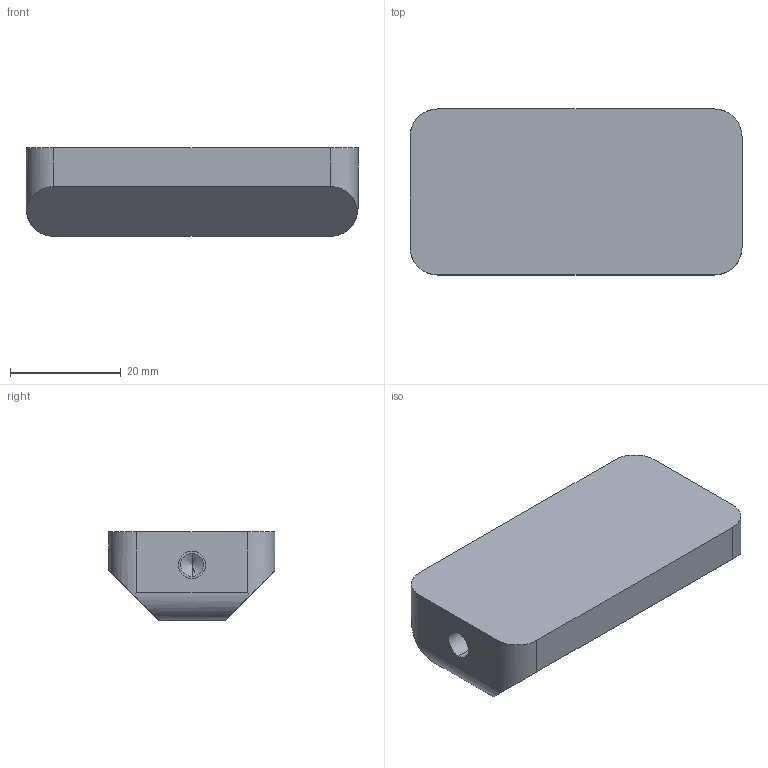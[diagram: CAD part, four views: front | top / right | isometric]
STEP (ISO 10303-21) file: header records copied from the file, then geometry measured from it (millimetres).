
FILE_DESCRIPTION (( 'STEP AP203' ), '1' );
FILE_NAME ('0003486 EZ-0072 30x60.STEP', '2022-01-31T16:10:23', ( '' ), ( '' ), 'SwSTEP 2.0', 'SolidWorks 2021', '' );
FILE_SCHEMA (( 'CONFIG_CONTROL_DESIGN' ));
Length unit declared in the file: millimetre
Products named in the file (1): 0003486 EZ-0072 30x60
Bounding box: 60 x 30 x 16 mm (x, y, z)
Volume: 22804.2 mm3; surface area: 6651.4 mm2
Topology: 4 solids, 4 shells, 102 faces, 232 edges, 140 vertices
Faces by surface type: cylinder 38, plane 34, cone 20, torus 8, sphere 2
Entity records: 2859 total; most frequent: DIRECTION 514, CARTESIAN_POINT 499, ORIENTED_EDGE 440, EDGE_CURVE 220, AXIS2_PLACEMENT_3D 203, VERTEX_POINT 140, EDGE_LOOP 118, LINE 108
